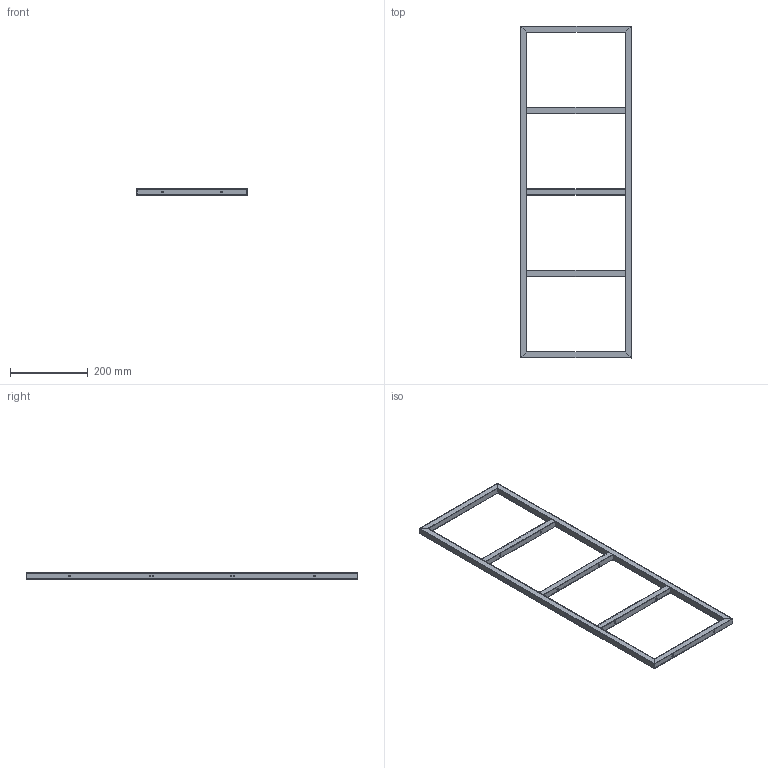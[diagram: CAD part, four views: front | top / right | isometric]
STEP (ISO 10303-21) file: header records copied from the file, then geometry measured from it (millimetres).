
FILE_DESCRIPTION (( 'STEP AP214' ), '1' );
FILE_NAME ('G326-M.STEP', '2022-05-23T06:38:18', ( '' ), ( '' ), 'SwSTEP 2.0', 'SolidWorks 2021', '' );
FILE_SCHEMA (( 'AUTOMOTIVE_DESIGN' ));
Length unit declared in the file: millimetre
Products named in the file (6): FrameA_856R; FrameA_286U; FrameA_286D; FrameA_856F; G326-M; FrameB_284
Assembly tree (7 placements, depth 2):
  G326-M
    FrameA_856R
    FrameA_286U
    FrameA_286D
    FrameA_856F
    FrameB_284  x3
Bounding box: 286 x 856 x 16 mm (x, y, z)
Volume: 273299.2 mm3; surface area: 342110.5 mm2
Topology: 7 solids, 7 shells, 154 faces, 420 edges, 280 vertices
Faces by surface type: plane 78, cylinder 76
Entity records: 3818 total; most frequent: CARTESIAN_POINT 716, ORIENTED_EDGE 600, DIRECTION 580, EDGE_CURVE 300, VERTEX_POINT 200, LINE 196, VECTOR 196, AXIS2_PLACEMENT_3D 192
